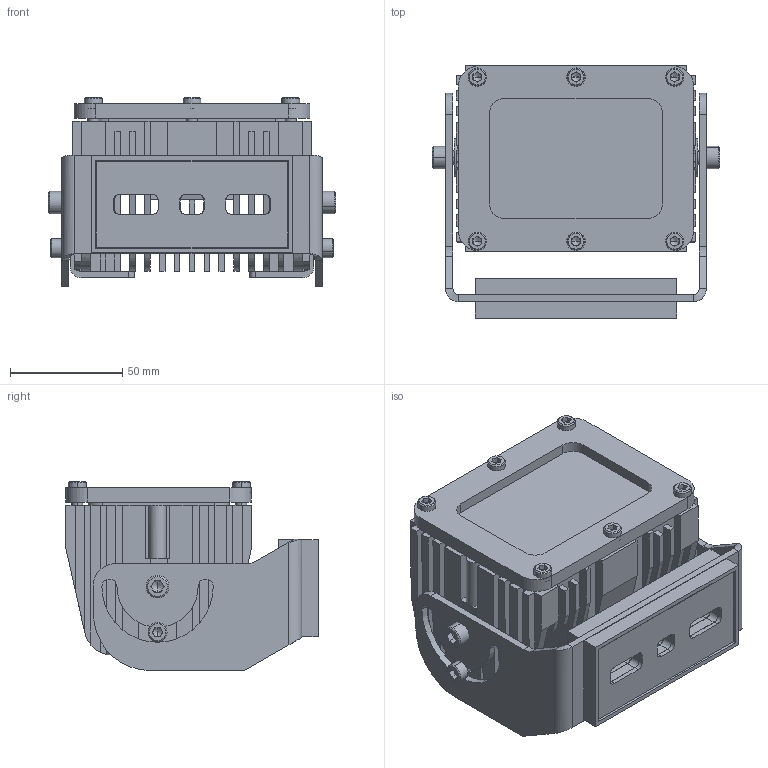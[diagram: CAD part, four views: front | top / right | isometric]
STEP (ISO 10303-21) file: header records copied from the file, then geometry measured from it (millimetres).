
FILE_DESCRIPTION (( 'STEP AP203' ), '1' );
FILE_NAME ('LEDEQ-3X2-CPR.STEP', '2017-04-13T15:54:56', ( '' ), ( '' ), 'SwSTEP 2.0', 'SolidWorks 2016', '' );
FILE_SCHEMA (( 'CONFIG_CONTROL_DESIGN' ));
Length unit declared in the file: inch
Products named in the file (1): LEDEQ-3X2-CPR
Bounding box: 127.89 x 112.26 x 84.09 mm (x, y, z)
Volume: 389902.9 mm3; surface area: 249815.8 mm2
Topology: 27 solids, 27 shells, 1194 faces, 3056 edges, 1925 vertices
Faces by surface type: plane 730, cylinder 285, cone 136, torus 20, sphere 15, bspline 8
Entity records: 35945 total; most frequent: CARTESIAN_POINT 6822, DIRECTION 6052, ORIENTED_EDGE 5982, EDGE_CURVE 2991, LINE 2056, VECTOR 2056, AXIS2_PLACEMENT_3D 1998, VERTEX_POINT 1904
